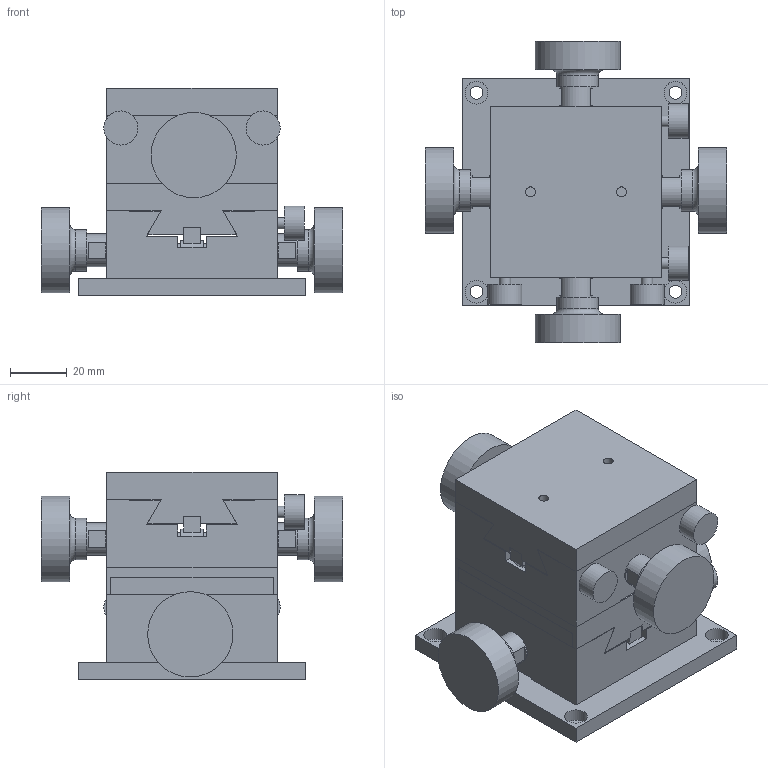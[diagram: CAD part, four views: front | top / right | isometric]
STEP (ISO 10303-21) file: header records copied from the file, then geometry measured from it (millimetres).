
FILE_DESCRIPTION( ( 'STEP AP203' ), '1' );
FILE_NAME( 'C:/3D-Trans/3D_B06-12R+080901.step', '2008-09-01T05:59:07', ( ' ' ), ( ' ' ), 'XStep 1.0', ' ', ' ' );
FILE_SCHEMA( ( 'CONFIG_CONTROL_DESIGN' ) );
Length unit declared in the file: millimetre
Products named in the file (6): 1; 2; 3; 4; 5; 6
Bounding box: 106 x 106 x 73 mm (x, y, z)
Volume: 306021.8 mm3; surface area: 87019.9 mm2
Topology: 6 solids, 8 shells, 316 faces, 776 edges, 516 vertices
Faces by surface type: plane 240, cylinder 72, torus 4
Full cylindrical faces by diameter (mm): 3.5 x4, 4 x4, 4.5 x10, 4.7 x2, 6 x4, 6.85 x2, 7 x6, 8 x6, 11.3 x2, 11.5 x10, 12 x4, 13.6 x4, 14.6 x4, 30 x4
Entity records: 8928 total; most frequent: DIRECTION 1520, CARTESIAN_POINT 1458, ORIENTED_EDGE 1320, EDGE_CURVE 660, AXIS2_PLACEMENT_3D 538, VERTEX_POINT 476, EDGE_LOOP 474, LINE 444
